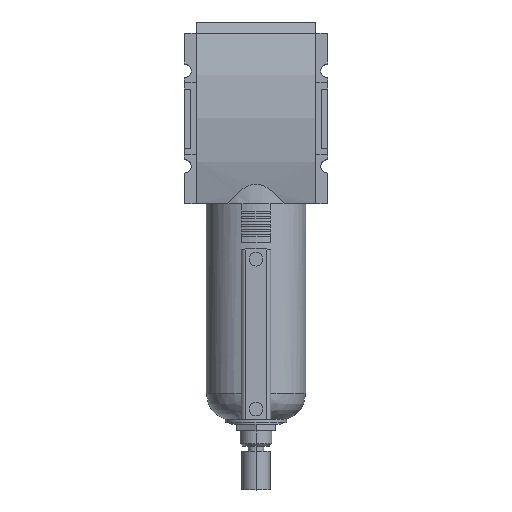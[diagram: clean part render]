
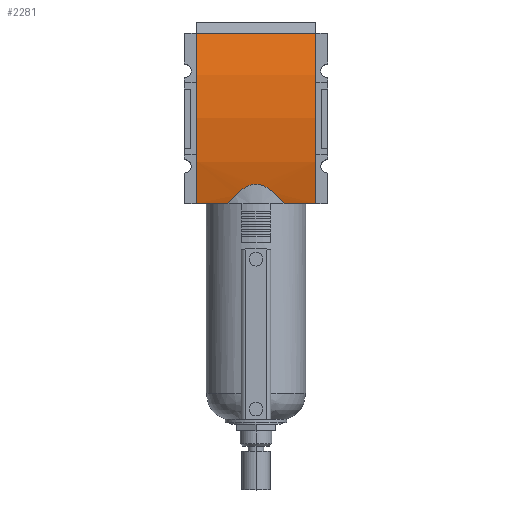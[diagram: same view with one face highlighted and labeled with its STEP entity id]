
A CAD part, top view. The second image highlights one B-rep face of the part: STEP entity #2281.
In plain terms, the highlighted cylindrical face has radius 125 mm (diameter 250 mm), a partial arc.
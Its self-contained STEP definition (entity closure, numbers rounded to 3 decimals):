
#67=CARTESIAN_POINT('',(-26.25,0.,-88.));
#68=DIRECTION('',(1.,0.,0.));
#69=DIRECTION('',(0.,0.3,0.954));
#70=AXIS2_PLACEMENT_3D('',#67,#68,#69);
#584=CARTESIAN_POINT('',(26.25,0.,-88.));
#585=DIRECTION('',(1.,0.,0.));
#586=DIRECTION('',(0.,0.3,0.954));
#587=AXIS2_PLACEMENT_3D('',#584,#585,#586);
#639=DIRECTION('',(1.,0.,0.));
#640=VECTOR('',#639,13.886);
#641=CARTESIAN_POINT('',(-26.25,-37.5,31.242));
#642=LINE('',#641,#640);
#648=DIRECTION('',(1.,0.,0.));
#649=VECTOR('',#648,13.886);
#650=CARTESIAN_POINT('',(12.364,-37.5,31.242));
#651=LINE('',#650,#649);
#807=DIRECTION('',(1.,0.,0.));
#808=VECTOR('',#807,52.5);
#809=CARTESIAN_POINT('',(-26.25,37.5,31.242));
#810=LINE('',#809,#808);
#811=CARTESIAN_POINT('',(12.364,-37.5,31.242));
#812=CARTESIAN_POINT('',(12.164,-37.248,31.322));
#813=CARTESIAN_POINT('',(11.76,-36.748,31.477));
#814=CARTESIAN_POINT('',(11.139,-36.008,31.702));
#815=CARTESIAN_POINT('',(10.502,-35.279,31.919));
#816=CARTESIAN_POINT('',(9.847,-34.563,32.127));
#817=CARTESIAN_POINT('',(9.171,-33.862,32.327));
#818=CARTESIAN_POINT('',(8.477,-33.183,32.516));
#819=CARTESIAN_POINT('',(7.768,-32.534,32.693));
#820=CARTESIAN_POINT('',(7.042,-31.919,32.857));
#821=CARTESIAN_POINT('',(6.313,-31.354,33.004));
#822=CARTESIAN_POINT('',(5.604,-30.857,33.132));
#823=CARTESIAN_POINT('',(4.942,-30.442,33.237));
#824=CARTESIAN_POINT('',(4.339,-30.106,33.32));
#825=CARTESIAN_POINT('',(3.772,-29.828,33.389));
#826=CARTESIAN_POINT('',(3.223,-29.593,33.446));
#827=CARTESIAN_POINT('',(2.694,-29.401,33.493));
#828=CARTESIAN_POINT('',(2.182,-29.247,33.53));
#829=CARTESIAN_POINT('',(1.684,-29.128,33.559));
#830=CARTESIAN_POINT('',(1.196,-29.04,33.58));
#831=CARTESIAN_POINT('',(0.717,-28.983,33.593));
#832=CARTESIAN_POINT('',(0.239,-28.955,33.6));
#833=CARTESIAN_POINT('',(-0.237,-28.955,
33.6));
#834=CARTESIAN_POINT('',(-0.714,-28.983,
33.594));
#835=CARTESIAN_POINT('',(-1.194,-29.04,33.58));
#836=CARTESIAN_POINT('',(-1.681,-29.127,33.559));
#837=CARTESIAN_POINT('',(-2.18,-29.246,33.53));
#838=CARTESIAN_POINT('',(-2.691,-29.4,33.493));
#839=CARTESIAN_POINT('',(-3.221,-29.592,33.447));
#840=CARTESIAN_POINT('',(-3.769,-29.826,33.389));
#841=CARTESIAN_POINT('',(-4.336,-30.105,33.321));
#842=CARTESIAN_POINT('',(-4.939,-30.441,33.237));
#843=CARTESIAN_POINT('',(-5.601,-30.855,33.132));
#844=CARTESIAN_POINT('',(-6.31,-31.351,33.005));
#845=CARTESIAN_POINT('',(-7.038,-31.916,32.857));
#846=CARTESIAN_POINT('',(-7.763,-32.53,32.694));
#847=CARTESIAN_POINT('',(-8.473,-33.179,32.517));
#848=CARTESIAN_POINT('',(-9.167,-33.858,32.328));
#849=CARTESIAN_POINT('',(-9.843,-34.559,32.128));
#850=CARTESIAN_POINT('',(-10.499,-35.276,31.92));
#851=CARTESIAN_POINT('',(-11.137,-36.006,31.703));
#852=CARTESIAN_POINT('',(-11.759,-36.747,31.477));
#853=CARTESIAN_POINT('',(-12.164,-37.248,31.322));
#854=CARTESIAN_POINT('',(-12.364,-37.5,31.242));
#1182=CARTESIAN_POINT('',(-26.25,-37.5,31.242));
#1184=VERTEX_POINT('',#1182);
#1186=CARTESIAN_POINT('',(26.25,-37.5,31.242));
#1188=VERTEX_POINT('',#1186);
#1238=CARTESIAN_POINT('',(-12.364,-37.5,31.242));
#1239=VERTEX_POINT('',#1238);
#1240=CARTESIAN_POINT('',(12.364,-37.5,31.242));
#1241=VERTEX_POINT('',#1240);
#1454=CARTESIAN_POINT('',(-26.25,37.5,31.242));
#1455=VERTEX_POINT('',#1454);
#1458=CARTESIAN_POINT('',(26.25,37.5,31.242));
#1459=VERTEX_POINT('',#1458);
#2267=CARTESIAN_POINT('',(-26.25,0.,-88.));
#2268=DIRECTION('',(1.,0.,0.));
#2269=DIRECTION('',(0.,0.,-1.));
#2270=AXIS2_PLACEMENT_3D('',#2267,#2268,#2269);
#2271=CYLINDRICAL_SURFACE('',#2270,125.);
#2272=ORIENTED_EDGE('',*,*,#1503,.F.);
#2273=ORIENTED_EDGE('',*,*,#2211,.T.);
#2274=ORIENTED_EDGE('',*,*,#2066,.T.);
#2275=ORIENTED_EDGE('',*,*,#2127,.F.);
#2277=ORIENTED_EDGE('',*,*,#2276,.T.);
#2278=ORIENTED_EDGE('',*,*,#2123,.F.);
#2279=EDGE_LOOP('',(#2272,#2273,#2274,#2275,#2277,#2278));
#2280=FACE_OUTER_BOUND('',#2279,.F.);
#2281=ADVANCED_FACE('',(#2280),#2271,.T.);
#71=CIRCLE('',#70,125.);
#588=CIRCLE('',#587,125.);
#855=B_SPLINE_CURVE_WITH_KNOTS('',3,(#811,#812,#813,#814,#815,#816,#817,#818,
#819,#820,#821,#822,#823,#824,#825,#826,#827,#828,#829,#830,#831,#832,#833,#834,
#835,#836,#837,#838,#839,#840,#841,#842,#843,#844,#845,#846,#847,#848,#849,#850,
#851,#852,#853,#854),.UNSPECIFIED.,.F.,.F.,(4,1,1,1,1,1,1,1,1,1,1,1,1,1,1,1,1,1,
1,1,1,1,1,1,1,1,1,1,1,1,1,1,1,1,1,1,1,1,1,1,1,4),(0.,0.024,
0.049,0.073,0.098,0.122,
0.146,0.171,0.195,0.22,
0.244,0.268,0.293,0.317,
0.341,0.366,0.39,0.415,
0.439,0.463,0.488,0.512,
0.537,0.561,0.585,0.61,
0.634,0.659,0.683,0.707,
0.732,0.756,0.78,0.805,
0.829,0.854,0.878,0.902,
0.927,0.951,0.976,1.),.UNSPECIFIED.);
#1503=EDGE_CURVE('',#1455,#1184,#71,.T.);
#2066=EDGE_CURVE('',#1459,#1188,#588,.T.);
#2123=EDGE_CURVE('',#1184,#1239,#642,.T.);
#2127=EDGE_CURVE('',#1241,#1188,#651,.T.);
#2211=EDGE_CURVE('',#1455,#1459,#810,.T.);
#2276=EDGE_CURVE('',#1241,#1239,#855,.T.);
